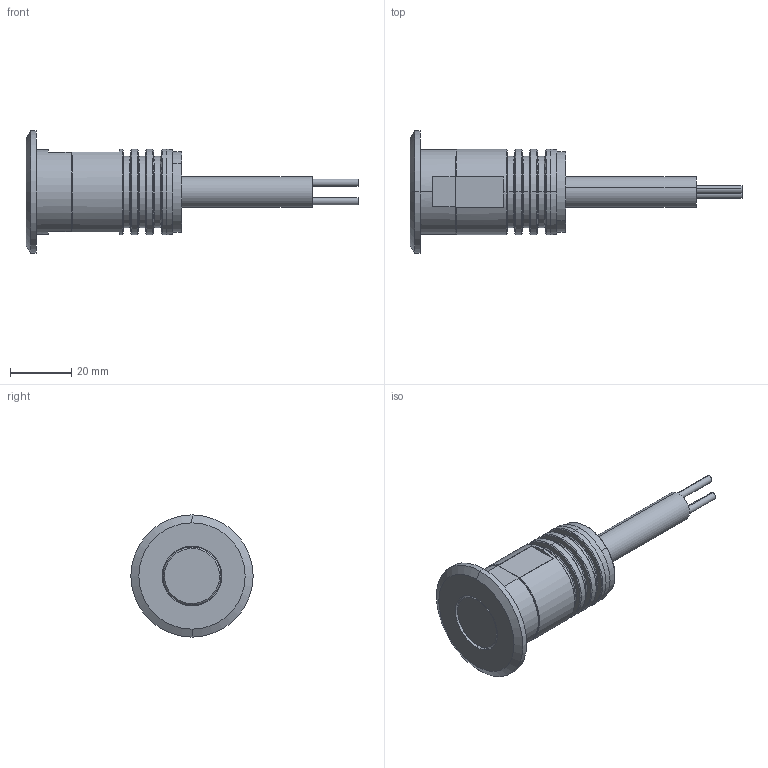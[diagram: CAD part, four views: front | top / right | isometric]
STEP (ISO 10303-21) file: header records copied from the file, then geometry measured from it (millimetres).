
FILE_DESCRIPTION (( 'STEP AP203' ), '1' );
FILE_NAME ('GROUND MICRO RD.STEP', '2023-04-03T09:34:10', ( '' ), ( '' ), 'SwSTEP 2.0', 'SolidWorks 2017', '' );
FILE_SCHEMA (( 'CONFIG_CONTROL_DESIGN' ));
Length unit declared in the file: millimetre
Products named in the file (1): GROUND MICRO RD
Bounding box: 108.65 x 40 x 40 mm (x, y, z)
Volume: 29466.2 mm3; surface area: 21449.5 mm2
Topology: 17 solids, 17 shells, 352 faces, 789 edges, 495 vertices
Faces by surface type: plane 148, cylinder 111, cone 72, torus 14, bspline 7
Entity records: 10055 total; most frequent: CARTESIAN_POINT 1934, DIRECTION 1781, ORIENTED_EDGE 1558, EDGE_CURVE 779, AXIS2_PLACEMENT_3D 676, VERTEX_POINT 495, VECTOR 429, LINE 429
